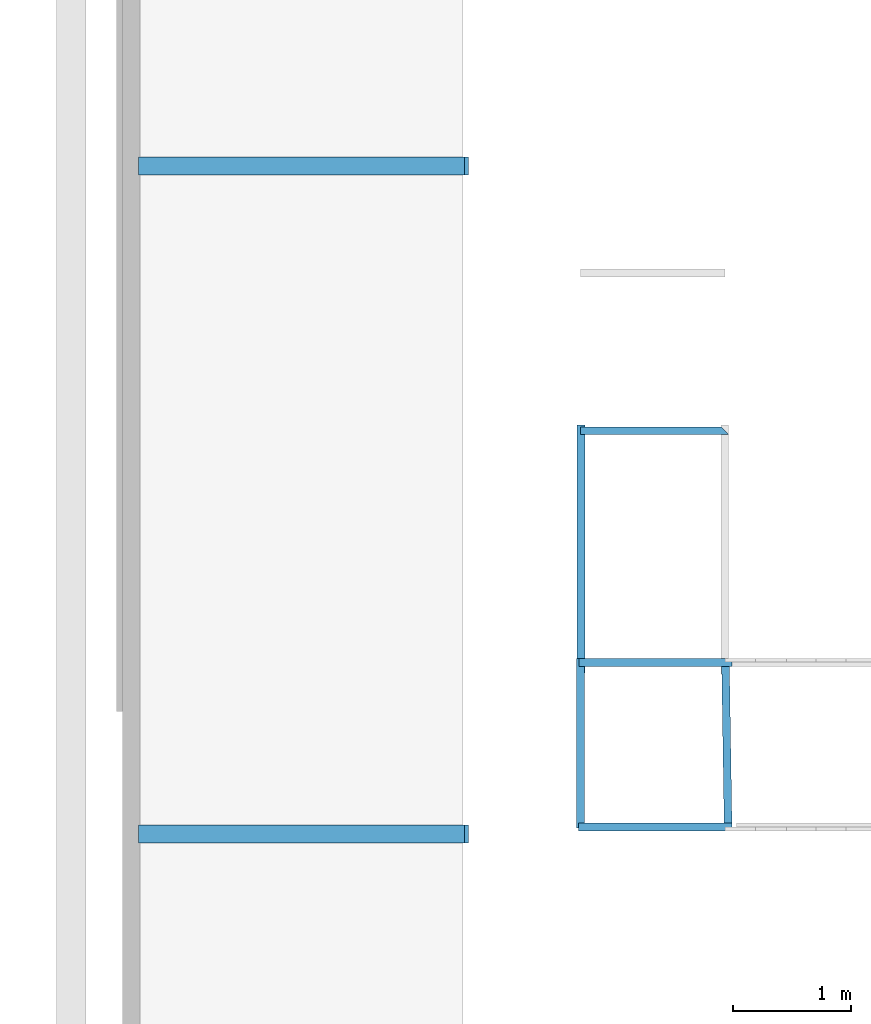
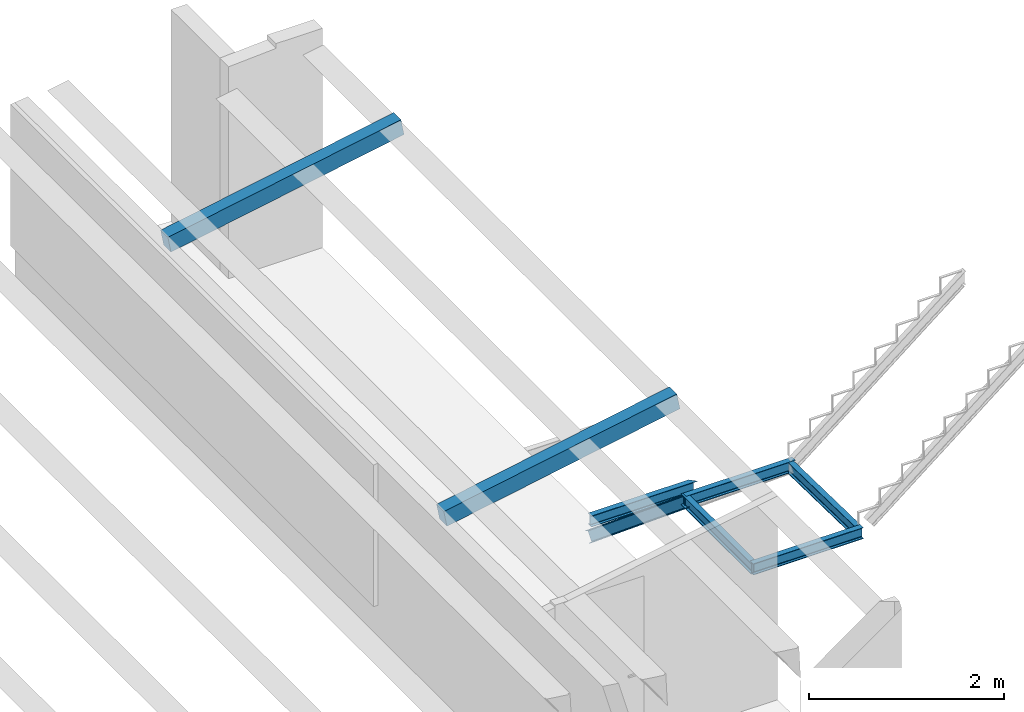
# One storey, part 1 of 4: 8 beams.
"""IFC2X3 building model written with IfcOpenShell, lengths in metres."""

from ifc_helpers import new_model, entity, si_unit, converted_unit, derived_unit, direction, frame, frame_2d, origin, origin_2d_with_axis, place, context, subcontext, project, spatial, polyline, circle_curve, parameter, trimmed, segment, composite_curve, rectangle, outline, extrude, clip, halfspace, material, type_object, element, save


model = new_model("IFC2X3")

# Units and contexts
model_context = context("Model", 3, precision=1e-05, world=origin(), true_north=direction((6.12303176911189e-17, 1.0)))
body_context = subcontext(model_context, "Body", "Model", "MODEL_VIEW")
ifc_project = project(units=[si_unit("LENGTHUNIT", "METRE"), si_unit("AREAUNIT", "SQUARE_METRE"), si_unit("VOLUMEUNIT", "CUBIC_METRE"), converted_unit("PLANEANGLEUNIT", "DEGREE", entity("IfcRatioMeasure", 0.0174532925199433), si_unit("PLANEANGLEUNIT", "RADIAN"), dimensions=[0, 0, 0, 0, 0, 0, 0]), si_unit("MASSUNIT", "GRAM", prefix="KILO"), derived_unit("MASSDENSITYUNIT", [(si_unit("MASSUNIT", "GRAM", prefix="KILO"), 1), (si_unit("LENGTHUNIT", "METRE"), -3)]), derived_unit("MOMENTOFINERTIAUNIT", [(si_unit("LENGTHUNIT", "METRE"), 4)]), si_unit("TIMEUNIT", "SECOND"), si_unit("FREQUENCYUNIT", "HERTZ"), si_unit("THERMODYNAMICTEMPERATUREUNIT", "DEGREE_CELSIUS"), derived_unit("THERMALTRANSMITTANCEUNIT", [(si_unit("MASSUNIT", "GRAM", prefix="KILO"), 1), (si_unit("THERMODYNAMICTEMPERATUREUNIT", "KELVIN"), -1), (si_unit("TIMEUNIT", "SECOND"), -3)]), derived_unit("VOLUMETRICFLOWRATEUNIT", [(si_unit("LENGTHUNIT", "METRE"), 3), (si_unit("TIMEUNIT", "SECOND"), -1)]), si_unit("ELECTRICCURRENTUNIT", "AMPERE"), si_unit("ELECTRICVOLTAGEUNIT", "VOLT"), si_unit("POWERUNIT", "WATT"), si_unit("FORCEUNIT", "NEWTON", prefix="KILO"), si_unit("ILLUMINANCEUNIT", "LUX"), si_unit("LUMINOUSFLUXUNIT", "LUMEN"), si_unit("LUMINOUSINTENSITYUNIT", "CANDELA"), derived_unit("USERDEFINED", [(si_unit("MASSUNIT", "GRAM", prefix="KILO"), -1), (si_unit("LENGTHUNIT", "METRE"), -2), (si_unit("TIMEUNIT", "SECOND"), 3), (si_unit("LUMINOUSFLUXUNIT", "LUMEN"), 1)]), derived_unit("LINEARVELOCITYUNIT", [(si_unit("LENGTHUNIT", "METRE"), 1), (si_unit("TIMEUNIT", "SECOND"), -1)]), si_unit("PRESSUREUNIT", "PASCAL"), derived_unit("USERDEFINED", [(si_unit("LENGTHUNIT", "METRE"), -2), (si_unit("MASSUNIT", "GRAM", prefix="KILO"), 1), (si_unit("TIMEUNIT", "SECOND"), -2)]), derived_unit("LINEARFORCEUNIT", [(si_unit("MASSUNIT", "GRAM", prefix="KILO"), 1), (si_unit("LENGTHUNIT", "METRE"), 1), (si_unit("TIMEUNIT", "SECOND"), -2), (si_unit("LENGTHUNIT", "METRE"), -1)]), derived_unit("PLANARFORCEUNIT", [(si_unit("MASSUNIT", "GRAM", prefix="KILO"), 1), (si_unit("LENGTHUNIT", "METRE"), 1), (si_unit("TIMEUNIT", "SECOND"), -2), (si_unit("LENGTHUNIT", "METRE"), -2)])], contexts=[model_context])

# Site, building, storey
site_placement = place(None, origin())
site = spatial("IfcSite", under=ifc_project, at=site_placement, Name="Superficie", CompositionType="ELEMENT")
building_placement = place(site_placement, origin())
building = spatial("IfcBuilding", under=site, at=building_placement, Name="Telegestiones", CompositionType="ELEMENT")
storey_placement = place(building_placement, frame((0.0, 0.0, 3.21)))
storey = spatial("IfcBuildingStorey", under=building, at=storey_placement, Name="Entrepiso_NPT", CompositionType="ELEMENT", Elevation=3.21)

# Beams
ifc_material_1 = material(Name="Metal - Acero - 345 MPa")
beam_type_1 = type_object("IfcBeamType", Name="IPN - Secciones en I con alas cónicas:IPN 140", PredefinedType="NOTDEFINED")
beam_1_placement = place(storey_placement, frame((7.59481262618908, 1.52934260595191, 0.0297250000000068), z_axis=(0.0, 0.0, 1.0), x_axis=(-1.0, 0.0, 0.0)))
element("IfcBeam", 1, at=beam_1_placement, inside=storey, type_object=beam_type_1, material=ifc_material_1, Name="IPN - Secciones en I con alas cónicas:IPN 140", ObjectType="IPN - Secciones en I con alas cónicas:IPN 140", context=body_context, shape_type="SweptSolid", body=[
    extrude(outline(composite_curve([segment(polyline([(0.0666671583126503, -0.0330000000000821), (0.0699999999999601, -0.0330000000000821)]), True, "CONTINUOUS"), segment(polyline([(0.0699999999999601, -0.0330000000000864), (0.0700000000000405, 0.032999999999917)]), True, "CONTINUOUS"), segment(polyline([(0.0700000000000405, 0.0329999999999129), (0.0666671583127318, 0.032999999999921)]), True, "CONTINUOUS"), segment(trimmed(circle_curve(frame_2d((0.0666671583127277, 0.0295999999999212), x_axis=(0.0, 1.0)), 0.00339999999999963), [parameter(0.0)], [parameter(82.0303896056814)], True, "PARAMETER"), True, "CONTINUOUS"), segment(polyline([(0.0632999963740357, 0.0300714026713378), (0.0601763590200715, 0.00775970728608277)]), True, "CONTINUOUS"), segment(trimmed(circle_curve(frame_2d((0.0545314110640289, 0.00854999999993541), x_axis=(0.990341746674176, -0.138647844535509)), 0.0056999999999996), [parameter(277.969610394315)], [parameter(0.0)], True, "PARAMETER"), False, "CONTINUOUS"), segment(polyline([(0.0545314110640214, 0.00284999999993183), (-0.0545314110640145, 0.00285000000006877)]), True, "CONTINUOUS"), segment(trimmed(circle_curve(frame_2d((-0.0545314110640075, 0.00855000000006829), x_axis=(0.0, -1.0)), 0.00569999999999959), [parameter(277.969610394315)], [parameter(0.0)], True, "PARAMETER"), False, "CONTINUOUS"), segment(polyline([(-0.060176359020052, 0.00775970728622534), (-0.0632999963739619, 0.0300714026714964)]), True, "CONTINUOUS"), segment(trimmed(circle_curve(frame_2d((-0.066667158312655, 0.0296000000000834), x_axis=(0.990341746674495, 0.138647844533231)), 0.00340000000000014), [parameter(0.0)], [parameter(82.0303896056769)], True, "PARAMETER"), True, "CONTINUOUS"), segment(polyline([(-0.0666671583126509, 0.0330000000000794), (-0.0699999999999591, 0.0330000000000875)]), True, "CONTINUOUS"), segment(polyline([(-0.0699999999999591, 0.0330000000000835), (-0.0700000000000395, -0.0329999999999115)]), True, "CONTINUOUS"), segment(polyline([(-0.0700000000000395, -0.0329999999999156), (-0.0666671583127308, -0.0329999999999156)]), True, "CONTINUOUS"), segment(trimmed(circle_curve(frame_2d((-0.0666671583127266, -0.0295999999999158), x_axis=(0.0, -1.0)), 0.00340000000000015), [parameter(0.0)], [parameter(82.0303896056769)], True, "PARAMETER"), True, "CONTINUOUS"), segment(polyline([(-0.0632999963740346, -0.0300714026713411), (-0.0601763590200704, -0.00775970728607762)]), True, "CONTINUOUS"), segment(trimmed(circle_curve(frame_2d((-0.0545314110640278, -0.00854999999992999), x_axis=(-0.990341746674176, 0.138647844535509)), 0.00569999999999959), [parameter(277.969610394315)], [parameter(0.0)], True, "PARAMETER"), False, "CONTINUOUS"), segment(polyline([(-0.0545314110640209, -0.00284999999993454), (0.0545314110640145, -0.00285000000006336)]), True, "CONTINUOUS"), segment(trimmed(circle_curve(frame_2d((0.0545314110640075, -0.00855000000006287), x_axis=(0.0, 1.0)), 0.0056999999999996), [parameter(277.969610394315)], [parameter(0.0)], True, "PARAMETER"), False, "CONTINUOUS"), segment(polyline([(0.060176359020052, -0.00775970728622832), (0.0632999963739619, -0.030071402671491)]), True, "CONTINUOUS"), segment(trimmed(circle_curve(frame_2d((0.066667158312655, -0.0296000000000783), x_axis=(-0.990341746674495, -0.138647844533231)), 0.00340000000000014), [parameter(0.0)], [parameter(82.0303896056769)], True, "PARAMETER"), True, "CONTINUOUS")], self_intersect=False)), frame((-0.0335719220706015, 0.0, -0.0700000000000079), z_axis=(1.0, 0.0, 0.0), x_axis=(0.0, 0.0, -1.0)), (0.0, 0.0, 1.0), 1.2995719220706),
])
beam_2_placement = place(storey_placement, frame((6.3478126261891, 2.91875008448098, 0.0297249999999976), z_axis=(0.0, 0.0, 1.0), x_axis=(0.0, -1.0, 0.0)))
element("IfcBeam", 2, at=beam_2_placement, inside=storey, type_object=beam_type_1, material=ifc_material_1, Name="IPN - Secciones en I con alas cónicas:IPN 140", ObjectType="IPN - Secciones en I con alas cónicas:IPN 140", context=body_context, shape_type="SweptSolid", body=[
    extrude(outline(composite_curve([segment(polyline([(0.0666671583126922, -0.0330000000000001), (0.0699999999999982, -0.0330000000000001)]), True, "CONTINUOUS"), segment(polyline([(0.0700000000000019, -0.0330000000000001), (0.0699999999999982, 0.032999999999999)]), True, "CONTINUOUS"), segment(polyline([(0.0700000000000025, 0.032999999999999), (0.0666671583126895, 0.032999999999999)]), True, "CONTINUOUS"), segment(trimmed(circle_curve(frame_2d((0.06666715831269, 0.0295999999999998), x_axis=(0.0, 1.0)), 0.00340000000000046), [parameter(0.0)], [parameter(82.0303896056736)], True, "PARAMETER"), True, "CONTINUOUS"), segment(polyline([(0.0632999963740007, 0.0300714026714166), (0.0601763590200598, 0.00775970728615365)]), True, "CONTINUOUS"), segment(trimmed(circle_curve(frame_2d((0.0545314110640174, 0.00854999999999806), x_axis=(0.990341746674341, -0.138647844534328)), 0.00569999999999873), [parameter(277.969610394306)], [parameter(0.0)], True, "PARAMETER"), False, "CONTINUOUS"), segment(polyline([(0.0545314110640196, 0.00284999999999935), (-0.0545314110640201, 0.00284999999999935)]), True, "CONTINUOUS"), segment(trimmed(circle_curve(frame_2d((-0.0545314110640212, 0.00854999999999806), x_axis=(0.0, -1.0)), 0.00569999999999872), [parameter(277.969610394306)], [parameter(0.0)], True, "PARAMETER"), False, "CONTINUOUS"), segment(polyline([(-0.0601763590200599, 0.00775970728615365), (-0.0632999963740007, 0.0300714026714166)]), True, "CONTINUOUS"), segment(trimmed(circle_curve(frame_2d((-0.0666671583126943, 0.0295999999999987), x_axis=(0.990341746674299, 0.138647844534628)), 0.00340000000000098), [parameter(0.0)], [parameter(82.0303896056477)], True, "PARAMETER"), True, "CONTINUOUS"), segment(polyline([(-0.0666671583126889, 0.032999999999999), (-0.0700000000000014, 0.032999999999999)]), True, "CONTINUOUS"), segment(polyline([(-0.0699999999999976, 0.032999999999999), (-0.0700000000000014, -0.0330000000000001)]), True, "CONTINUOUS"), segment(polyline([(-0.0699999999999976, -0.0330000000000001), (-0.0666671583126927, -0.0330000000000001)]), True, "CONTINUOUS"), segment(trimmed(circle_curve(frame_2d((-0.0666671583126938, -0.0295999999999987), x_axis=(0.0, -1.0)), 0.00340000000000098), [parameter(0.0)], [parameter(82.0303896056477)], True, "PARAMETER"), True, "CONTINUOUS"), segment(polyline([(-0.0632999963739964, -0.0300714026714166), (-0.0601763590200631, -0.00775970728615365)]), True, "CONTINUOUS"), segment(trimmed(circle_curve(frame_2d((-0.0545314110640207, -0.00854999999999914), x_axis=(-0.990341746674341, 0.138647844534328)), 0.00569999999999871), [parameter(277.969610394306)], [parameter(0.0)], True, "PARAMETER"), False, "CONTINUOUS"), segment(polyline([(-0.0545314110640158, -0.00285000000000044), (0.0545314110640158, -0.00285000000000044)]), True, "CONTINUOUS"), segment(trimmed(circle_curve(frame_2d((0.0545314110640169, -0.00854999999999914), x_axis=(0.0, 1.0)), 0.0056999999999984), [parameter(277.969610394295)], [parameter(0.0)], True, "PARAMETER"), False, "CONTINUOUS"), segment(polyline([(0.0601763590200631, -0.00775970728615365), (0.0632999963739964, -0.0300714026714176)]), True, "CONTINUOUS"), segment(trimmed(circle_curve(frame_2d((0.06666715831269, -0.0295999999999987), x_axis=(-0.990341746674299, -0.138647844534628)), 0.00340000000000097), [parameter(0.0)], [parameter(82.0303896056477)], True, "PARAMETER"), True, "CONTINUOUS")], self_intersect=False)), frame((-0.0329219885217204, 0.0, -0.0700000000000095), z_axis=(1.0, 0.0, 0.0), x_axis=(0.0, 0.0, -1.0)), (0.0, 0.0, 1.0), 1.432),
])
beam_3_placement = place(storey_placement, frame((6.3478126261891, 4.87735722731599, -1.40972499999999)))
element("IfcBeam", 3, at=beam_3_placement, inside=storey, type_object=beam_type_1, material=ifc_material_1, Name="IPN - Secciones en I con alas cónicas:IPN 140", ObjectType="IPN - Secciones en I con alas cónicas:IPN 140", context=body_context, shape_type="SweptSolid", body=[
    clip(extrude(outline(composite_curve([segment(polyline([(-0.0699999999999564, -0.0330000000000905), (-0.066667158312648, -0.0330000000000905)]), True, "CONTINUOUS"), segment(trimmed(circle_curve(frame_2d((-0.0666671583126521, -0.0296000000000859), x_axis=(0.0, -1.0)), 0.00339999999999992), [parameter(0.0)], [parameter(82.030389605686)], True, "PARAMETER"), True, "CONTINUOUS"), segment(polyline([(-0.0632999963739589, -0.0300714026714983), (-0.0601763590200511, -0.00775970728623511)]), True, "CONTINUOUS"), segment(trimmed(circle_curve(frame_2d((-0.0545314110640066, -0.00855000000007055), x_axis=(-0.9903417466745, 0.138647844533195)), 0.00570000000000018), [parameter(277.969610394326)], [parameter(0.0)], True, "PARAMETER"), False, "CONTINUOUS"), segment(polyline([(-0.054531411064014, -0.00285000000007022), (0.0545314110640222, -0.00284999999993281)]), True, "CONTINUOUS"), segment(trimmed(circle_curve(frame_2d((0.0545314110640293, -0.00854999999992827), x_axis=(0.0, 1.0)), 0.00570000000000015), [parameter(277.96961039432)], [parameter(0.0)], True, "PARAMETER"), False, "CONTINUOUS"), segment(polyline([(0.0601763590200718, -0.0077597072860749), (0.0632999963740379, -0.0300714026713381)]), True, "CONTINUOUS"), segment(trimmed(circle_curve(frame_2d((0.0666671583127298, -0.0295999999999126), x_axis=(-0.990341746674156, -0.138647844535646)), 0.00339999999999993), [parameter(0.0)], [parameter(82.030389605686)], True, "PARAMETER"), True, "CONTINUOUS"), segment(polyline([(0.0666671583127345, -0.0329999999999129), (0.0700000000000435, -0.0329999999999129)]), True, "CONTINUOUS"), segment(polyline([(0.0700000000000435, -0.0329999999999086), (0.0699999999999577, 0.0330000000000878)]), True, "CONTINUOUS"), segment(polyline([(0.0699999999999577, 0.0330000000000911), (0.0666671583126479, 0.0330000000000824)]), True, "CONTINUOUS"), segment(trimmed(circle_curve(frame_2d((0.0666671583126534, 0.0296000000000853), x_axis=(0.0, 1.0)), 0.00340000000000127), [parameter(0.0)], [parameter(82.0303896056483)], True, "PARAMETER"), True, "CONTINUOUS"), segment(polyline([(0.0632999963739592, 0.0300714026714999), (0.0601763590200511, 0.00775970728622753)]), True, "CONTINUOUS"), segment(trimmed(circle_curve(frame_2d((0.0545314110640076, 0.00855000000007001), x_axis=(0.990341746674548, -0.138647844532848)), 0.005699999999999), [parameter(277.969610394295)], [parameter(0.0)], True, "PARAMETER"), False, "CONTINUOUS"), segment(polyline([(0.054531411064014, 0.00285000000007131), (-0.0545314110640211, 0.00284999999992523)]), True, "CONTINUOUS"), segment(trimmed(circle_curve(frame_2d((-0.0545314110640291, 0.00854999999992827), x_axis=(0.0, -1.0)), 0.00569999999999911), [parameter(277.969610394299)], [parameter(0.0)], True, "PARAMETER"), False, "CONTINUOUS"), segment(polyline([(-0.060176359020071, 0.00775970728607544), (-0.0632999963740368, 0.0300714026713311)]), True, "CONTINUOUS"), segment(trimmed(circle_curve(frame_2d((-0.0666671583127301, 0.029599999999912), x_axis=(0.990341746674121, 0.138647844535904)), 0.00340000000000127), [parameter(0.0)], [parameter(82.0303896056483)], True, "PARAMETER"), True, "CONTINUOUS"), segment(polyline([(-0.0666671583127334, 0.0329999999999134), (-0.0700000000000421, 0.0329999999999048)]), True, "CONTINUOUS"), segment(polyline([(-0.0700000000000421, 0.0329999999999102), (-0.0699999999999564, -0.0330000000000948)]), True, "CONTINUOUS")], self_intersect=False)), frame((0.000392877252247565, 0.0, -0.0700000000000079), z_axis=(1.0, 0.0, 0.0), x_axis=(0.0, 0.0, -1.0)), (0.0, 0.0, 1.0), 1.25139287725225), halfspace(frame((1.1857857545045, 0.0330000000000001, 0.0), z_axis=(0.707106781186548, 0.707106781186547, 0.0), x_axis=(0.707106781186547, -0.707106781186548, 0.0)), False)),
])
beam_4_placement = place(storey_placement, frame((7.5725843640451, 2.91875008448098, 0.0297250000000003), z_axis=(0.0, 0.0, 1.0), x_axis=(-1.0, 0.0, 0.0)))
element("IfcBeam", 4, at=beam_4_placement, inside=storey, type_object=beam_type_1, material=ifc_material_1, Name="IPN - Secciones en I con alas cónicas:IPN 140", ObjectType="IPN - Secciones en I con alas cónicas:IPN 140", context=body_context, shape_type="SweptSolid", body=[
    extrude(outline(composite_curve([segment(polyline([(0.066667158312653, -0.033000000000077), (0.0699999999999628, -0.033000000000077)]), True, "CONTINUOUS"), segment(polyline([(0.0699999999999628, -0.0330000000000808), (0.0700000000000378, 0.0329999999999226)]), True, "CONTINUOUS"), segment(polyline([(0.0700000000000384, 0.0329999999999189), (0.0666671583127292, 0.0329999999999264)]), True, "CONTINUOUS"), segment(trimmed(circle_curve(frame_2d((0.0666671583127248, 0.0295999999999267), x_axis=(0.0, 1.0)), 0.00339999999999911), [parameter(0.0)], [parameter(82.0303896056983)], True, "PARAMETER"), True, "CONTINUOUS"), segment(polyline([(0.0632999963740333, 0.030071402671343), (0.0601763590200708, 0.00775970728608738)]), True, "CONTINUOUS"), segment(trimmed(circle_curve(frame_2d((0.0545314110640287, 0.0085499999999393), x_axis=(0.990341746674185, -0.138647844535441)), 0.00569999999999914), [parameter(277.969610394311)], [parameter(0.0)], True, "PARAMETER"), False, "CONTINUOUS"), segment(polyline([(0.0545314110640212, 0.00284999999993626), (-0.0545314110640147, 0.00285000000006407)]), True, "CONTINUOUS"), segment(trimmed(circle_curve(frame_2d((-0.0545314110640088, 0.00855000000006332), x_axis=(0.0, -1.0)), 0.00569999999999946), [parameter(277.969610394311)], [parameter(0.0)], True, "PARAMETER"), False, "CONTINUOUS"), segment(polyline([(-0.0601763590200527, 0.00775970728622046), (-0.0632999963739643, 0.0300714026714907)]), True, "CONTINUOUS"), segment(trimmed(circle_curve(frame_2d((-0.0666671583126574, 0.0296000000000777), x_axis=(0.990341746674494, 0.138647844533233)), 0.00339999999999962), [parameter(0.0)], [parameter(82.0303896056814)], True, "PARAMETER"), True, "CONTINUOUS"), segment(polyline([(-0.0666671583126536, 0.0330000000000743), (-0.0699999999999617, 0.0330000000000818)]), True, "CONTINUOUS"), segment(polyline([(-0.0699999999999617, 0.0330000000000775), (-0.0700000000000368, -0.0329999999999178)]), True, "CONTINUOUS"), segment(polyline([(-0.0700000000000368, -0.0329999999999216), (-0.0666671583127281, -0.0329999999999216)]), True, "CONTINUOUS"), segment(trimmed(circle_curve(frame_2d((-0.0666671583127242, -0.0295999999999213), x_axis=(0.0, -1.0)), 0.00339999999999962), [parameter(0.0)], [parameter(82.0303896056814)], True, "PARAMETER"), True, "CONTINUOUS"), segment(polyline([(-0.0632999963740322, -0.0300714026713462), (-0.0601763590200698, -0.00775970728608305)]), True, "CONTINUOUS"), segment(trimmed(circle_curve(frame_2d((-0.0545314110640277, -0.00854999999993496), x_axis=(-0.990341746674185, 0.138647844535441)), 0.00569999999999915), [parameter(277.969610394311)], [parameter(0.0)], True, "PARAMETER"), False, "CONTINUOUS"), segment(polyline([(-0.0545314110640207, -0.00284999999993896), (0.0545314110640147, -0.0028500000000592)]), True, "CONTINUOUS"), segment(trimmed(circle_curve(frame_2d((0.0545314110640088, -0.00855000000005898), x_axis=(0.0, 1.0)), 0.00569999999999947), [parameter(277.969610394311)], [parameter(0.0)], True, "PARAMETER"), False, "CONTINUOUS"), segment(polyline([(0.0601763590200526, -0.00775970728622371), (0.0632999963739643, -0.0300714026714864)]), True, "CONTINUOUS"), segment(trimmed(circle_curve(frame_2d((0.0666671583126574, -0.0296000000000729), x_axis=(-0.990341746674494, -0.138647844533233)), 0.00339999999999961), [parameter(0.0)], [parameter(82.0303896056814)], True, "PARAMETER"), True, "CONTINUOUS")], self_intersect=False)), frame((-0.0556141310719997, 0.0, -0.0700000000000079), z_axis=(1.0, 0.0, 0.0), x_axis=(0.0, 0.0, -1.0)), (0.0, 0.0, 1.0), 1.292),
])
beam_5_placement = place(storey_placement, frame((7.57209784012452, 2.94916091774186, 0.0297250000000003), z_axis=(0.0, 0.0, 1.0), x_axis=(0.0159963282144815, -0.999872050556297, 0.0)))
element("IfcBeam", 5, at=beam_5_placement, inside=storey, type_object=beam_type_1, material=ifc_material_1, Name="IPN - Secciones en I con alas cónicas:IPN 140", ObjectType="IPN - Secciones en I con alas cónicas:IPN 140", context=body_context, shape_type="SweptSolid", body=[
    extrude(outline(composite_curve([segment(polyline([(0.0666671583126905, -0.033), (0.0700000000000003, -0.033)]), True, "CONTINUOUS"), segment(polyline([(0.0700000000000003, -0.033), (0.0700000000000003, 0.0329999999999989)]), True, "CONTINUOUS"), segment(polyline([(0.0700000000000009, 0.0329999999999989), (0.0666671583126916, 0.0329999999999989)]), True, "CONTINUOUS"), segment(trimmed(circle_curve(frame_2d((0.0666671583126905, 0.0295999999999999), x_axis=(0.0, 1.0)), 0.00339999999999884), [parameter(0.0)], [parameter(82.0303896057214)], True, "PARAMETER"), True, "CONTINUOUS"), segment(polyline([(0.0632999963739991, 0.0300714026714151), (0.060176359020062, 0.00775970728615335)]), True, "CONTINUOUS"), segment(trimmed(circle_curve(frame_2d((0.0545314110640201, 0.00854999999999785), x_axis=(0.99034174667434, -0.138647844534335)), 0.00569999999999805), [parameter(277.969610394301)], [parameter(0.0)], True, "PARAMETER"), False, "CONTINUOUS"), segment(polyline([(0.0545314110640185, 0.00284999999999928), (-0.054531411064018, 0.00284999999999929)]), True, "CONTINUOUS"), segment(trimmed(circle_curve(frame_2d((-0.0545314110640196, 0.00854999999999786), x_axis=(0.0, -1.0)), 0.00569999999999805), [parameter(277.969610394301)], [parameter(0.0)], True, "PARAMETER"), False, "CONTINUOUS"), segment(polyline([(-0.0601763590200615, 0.00775970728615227), (-0.0632999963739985, 0.0300714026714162)]), True, "CONTINUOUS"), segment(trimmed(circle_curve(frame_2d((-0.0666671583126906, 0.0295999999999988), x_axis=(0.990341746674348, 0.138647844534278)), 0.00339999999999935), [parameter(0.0)], [parameter(82.0303896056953)], True, "PARAMETER"), True, "CONTINUOUS"), segment(polyline([(-0.0666671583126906, 0.0329999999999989), (-0.0699999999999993, 0.0329999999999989)]), True, "CONTINUOUS"), segment(polyline([(-0.0699999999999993, 0.0329999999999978), (-0.0699999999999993, -0.033)]), True, "CONTINUOUS"), segment(polyline([(-0.0699999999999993, -0.033), (-0.0666671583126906, -0.033)]), True, "CONTINUOUS"), segment(trimmed(circle_curve(frame_2d((-0.06666715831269, -0.0295999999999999), x_axis=(0.0, -1.0)), 0.00339999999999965), [parameter(0.0)], [parameter(82.0303896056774)], True, "PARAMETER"), True, "CONTINUOUS"), segment(polyline([(-0.063299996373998, -0.0300714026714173), (-0.060176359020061, -0.00775970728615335)]), True, "CONTINUOUS"), segment(trimmed(circle_curve(frame_2d((-0.054531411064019, -0.00854999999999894), x_axis=(-0.99034174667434, 0.138647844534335)), 0.00569999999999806), [parameter(277.969610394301)], [parameter(0.0)], True, "PARAMETER"), False, "CONTINUOUS"), segment(polyline([(-0.0545314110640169, -0.00285000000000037), (0.0545314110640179, -0.00285000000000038)]), True, "CONTINUOUS"), segment(trimmed(circle_curve(frame_2d((0.054531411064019, -0.00854999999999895), x_axis=(0.0, 1.0)), 0.00569999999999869), [parameter(277.969610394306)], [parameter(0.0)], True, "PARAMETER"), False, "CONTINUOUS"), segment(polyline([(0.0601763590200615, -0.00775970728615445), (0.0632999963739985, -0.0300714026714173)]), True, "CONTINUOUS"), segment(trimmed(circle_curve(frame_2d((0.0666671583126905, -0.0295999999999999), x_axis=(-0.990341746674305, -0.138647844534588)), 0.00339999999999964), [parameter(0.0)], [parameter(82.0303896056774)], True, "PARAMETER"), True, "CONTINUOUS")], self_intersect=False)), frame((0.0304147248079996, 0.0, -0.0700000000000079), z_axis=(1.0, 0.0, 0.0), x_axis=(0.0, 0.0, -1.0)), (0.0, 0.0, 1.0), 1.389585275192),
])
beam_6_placement = place(storey_placement, frame((6.35128977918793, 4.91731078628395, -1.62282700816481), z_axis=(0.0, 0.63725726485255, 0.770651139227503), x_axis=(0.0, -0.770651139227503, 0.63725726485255)))
element("IfcBeam", 6, at=beam_6_placement, inside=storey, type_object=beam_type_1, material=ifc_material_1, Name="IPN - Secciones en I con alas cónicas:IPN 140", ObjectType="IPN - Secciones en I con alas cónicas:IPN 140", context=body_context, shape_type="SweptSolid", body=[
    extrude(outline(composite_curve([segment(polyline([(0.0666671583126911, -0.0330000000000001), (0.0700000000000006, -0.0330000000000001)]), True, "CONTINUOUS"), segment(polyline([(0.0700000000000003, -0.0330000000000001), (0.0700000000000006, 0.032999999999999)]), True, "CONTINUOUS"), segment(polyline([(0.0700000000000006, 0.032999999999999), (0.0666671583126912, 0.032999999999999)]), True, "CONTINUOUS"), segment(trimmed(circle_curve(frame_2d((0.0666671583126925, 0.0295999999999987), x_axis=(0.0, 1.0)), 0.00340000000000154), [parameter(0.0)], [parameter(82.0303896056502)], True, "PARAMETER"), True, "CONTINUOUS"), segment(polyline([(0.0632999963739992, 0.0300714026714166), (0.060176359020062, 0.00775970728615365)]), True, "CONTINUOUS"), segment(trimmed(circle_curve(frame_2d((0.0545314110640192, 0.00854999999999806), x_axis=(0.990341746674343, -0.138647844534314)), 0.00569999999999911), [parameter(277.969610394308)], [parameter(0.0)], True, "PARAMETER"), False, "CONTINUOUS"), segment(polyline([(0.0545314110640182, 0.00284999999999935), (-0.0545314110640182, 0.00284999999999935)]), True, "CONTINUOUS"), segment(trimmed(circle_curve(frame_2d((-0.0545314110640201, 0.00854999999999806), x_axis=(0.0, -1.0)), 0.0056999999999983), [parameter(277.969610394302)], [parameter(0.0)], True, "PARAMETER"), False, "CONTINUOUS"), segment(polyline([(-0.060176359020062, 0.00775970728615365), (-0.0632999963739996, 0.0300714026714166)]), True, "CONTINUOUS"), segment(trimmed(circle_curve(frame_2d((-0.0666671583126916, 0.0295999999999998), x_axis=(0.990341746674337, 0.138647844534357)), 0.00339999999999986), [parameter(0.0)], [parameter(82.0303896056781)], True, "PARAMETER"), True, "CONTINUOUS"), segment(polyline([(-0.0666671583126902, 0.032999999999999), (-0.0699999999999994, 0.032999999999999)]), True, "CONTINUOUS"), segment(polyline([(-0.0699999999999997, 0.032999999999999), (-0.0699999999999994, -0.0330000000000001)]), True, "CONTINUOUS"), segment(polyline([(-0.0699999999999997, -0.0330000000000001), (-0.0666671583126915, -0.0330000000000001)]), True, "CONTINUOUS"), segment(trimmed(circle_curve(frame_2d((-0.0666671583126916, -0.0295999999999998), x_axis=(0.0, -1.0)), 0.00339999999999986), [parameter(0.0)], [parameter(82.0303896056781)], True, "PARAMETER"), True, "CONTINUOUS"), segment(polyline([(-0.0632999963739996, -0.0300714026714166), (-0.0601763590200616, -0.00775970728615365)]), True, "CONTINUOUS"), segment(trimmed(circle_curve(frame_2d((-0.0545314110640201, -0.00854999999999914), x_axis=(-0.990341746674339, 0.13864784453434)), 0.00569999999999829), [parameter(277.969610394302)], [parameter(0.0)], True, "PARAMETER"), False, "CONTINUOUS"), segment(polyline([(-0.0545314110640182, -0.00285000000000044), (0.0545314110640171, -0.00285000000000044)]), True, "CONTINUOUS"), segment(trimmed(circle_curve(frame_2d((0.0545314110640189, -0.00854999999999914), x_axis=(0.0, 1.0)), 0.0056999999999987), [parameter(277.969610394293)], [parameter(0.0)], True, "PARAMETER"), False, "CONTINUOUS"), segment(polyline([(0.0601763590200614, -0.00775970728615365), (0.0632999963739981, -0.0300714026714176)]), True, "CONTINUOUS"), segment(trimmed(circle_curve(frame_2d((0.0666671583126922, -0.0295999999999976), x_axis=(-0.990341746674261, -0.138647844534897)), 0.00340000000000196), [parameter(0.0)], [parameter(82.0303896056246)], True, "PARAMETER"), True, "CONTINUOUS")], self_intersect=False)), frame((-0.011607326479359, 0.0, -0.070000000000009), z_axis=(1.0, 0.0, 0.0), x_axis=(0.0, 0.0, -1.0)), (0.0, 0.0, 1.0), 2.60472024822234),
])
ifc_material_2 = material(Name="Hormigón, Moldeado in situ, gris")
beam_type_2 = type_object("IfcBeamType", Name="Hormigón-Viga rectangular:200x150", PredefinedType="NOTDEFINED")
beam_7_placement = place(storey_placement, frame((2.62481262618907, 7.11496903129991, 2.05), z_axis=(-0.180186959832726, 0.0, 0.983632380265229), x_axis=(0.983632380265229, 0.0, 0.180186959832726)))
element("IfcBeam", 7, at=beam_7_placement, inside=storey, type_object=beam_type_2, material=ifc_material_2, Name="Hormigón-Viga rectangular:200x150", ObjectType="Hormigón-Viga rectangular:200x150", context=body_context, shape_type="SweptSolid", body=[
    extrude(rectangle(XDim=0.2, YDim=0.150000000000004, at=frame_2d((0.0, -1.08246744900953e-15), x_axis=(1.0, 0.0))), frame((-0.0122522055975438, 0.0, -0.100000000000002), z_axis=(1.0, 0.0, 0.0), x_axis=(0.0, 0.0, -1.0)), (0.0, 0.0, 1.0), 2.7994),
])
beam_8_placement = place(storey_placement, frame((2.62481262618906, 1.46901833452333, 2.05), z_axis=(-0.180186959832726, 0.0, 0.983632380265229), x_axis=(0.983632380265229, 0.0, 0.180186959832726)))
element("IfcBeam", 8, at=beam_8_placement, inside=storey, type_object=beam_type_2, material=ifc_material_2, Name="Hormigón-Viga rectangular:200x150", ObjectType="Hormigón-Viga rectangular:200x150", context=body_context, shape_type="SweptSolid", body=[
    extrude(rectangle(XDim=0.2, YDim=0.150000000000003, at=origin_2d_with_axis()), frame((-0.0122522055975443, 0.0, -0.100000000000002), z_axis=(1.0, 0.0, 0.0), x_axis=(0.0, 0.0, -1.0)), (0.0, 0.0, 1.0), 2.7994),
])

save(model, "model.ifc")
